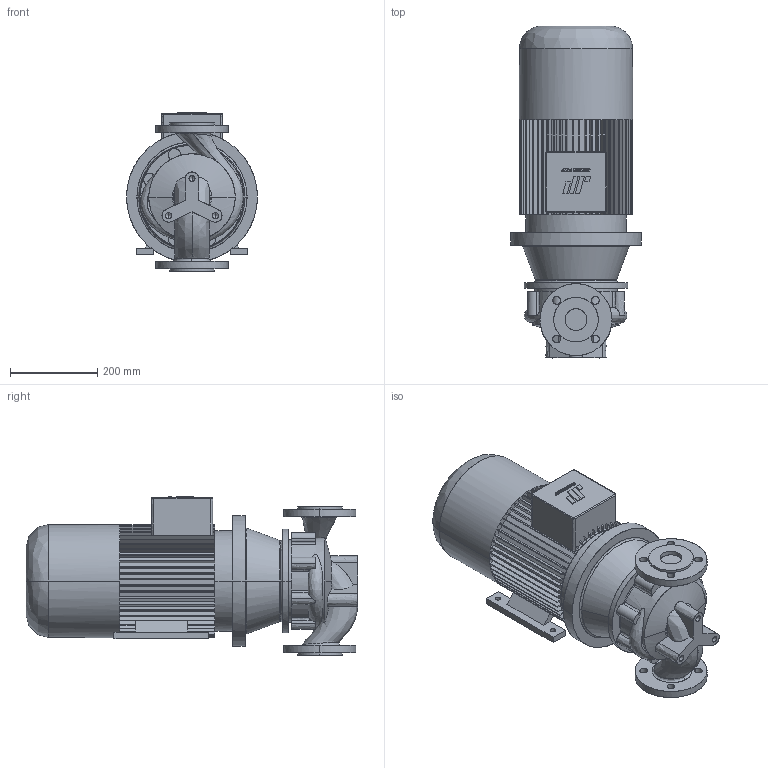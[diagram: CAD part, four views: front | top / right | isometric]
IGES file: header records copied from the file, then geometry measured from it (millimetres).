
Start section: CombiLine
Global section: file name: CLB_50-160_IEC132M_ND10.igs; native system:  By UGS Corp.; preprocessor: XPlus GENERIC/IGES 3.0; author: Stageplaats; organization: Johnson Pump Water B.V.; date: 20070716.114926; units: millimetre
Bounding box: 300 x 760.5 x 363 mm (x, y, z)
Surface area: 1238141.8 mm2 (no closed solid volume)
Topology: 0 solids, 0 shells, 582 faces, 3532 edges, 3526 vertices
Faces by surface type: bspline 582
